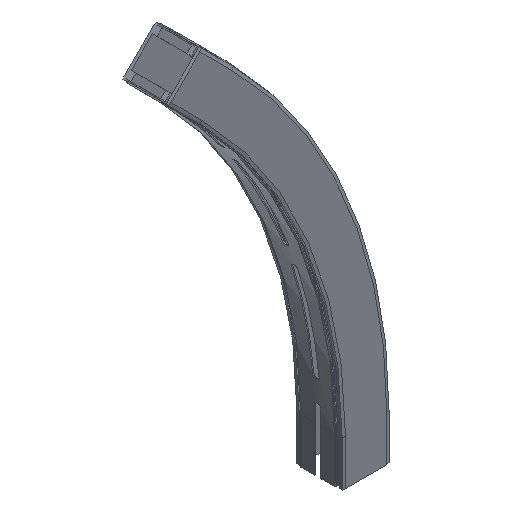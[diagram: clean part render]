
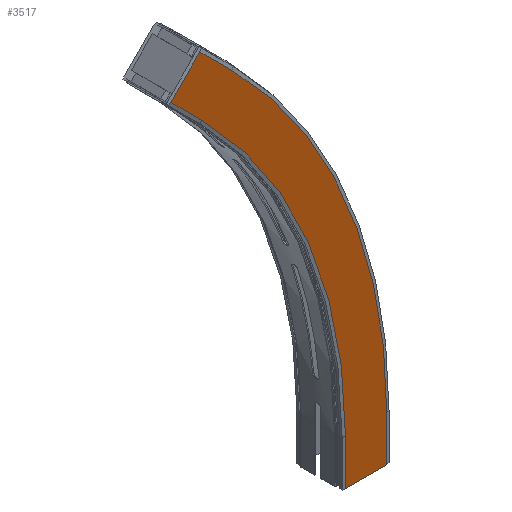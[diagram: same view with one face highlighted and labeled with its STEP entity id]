
A CAD part, isometric view. The second image highlights one B-rep face of the part: STEP entity #3517.
In plain terms, the highlighted planar face has unit normal (0, -1, 0).
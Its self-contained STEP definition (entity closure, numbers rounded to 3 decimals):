
#373=FACE_OUTER_BOUND('',#565,.T.);
#565=EDGE_LOOP('',(#3211,#3212,#3213,#3214,#3215,#3216,#3217,#3218));
#663=CIRCLE('',#3782,936.5);
#666=CIRCLE('',#3788,863.5);
#992=LINE('',#6453,#1346);
#997=LINE('',#6462,#1351);
#999=LINE('',#6467,#1353);
#1014=LINE('',#6507,#1368);
#1019=LINE('',#6518,#1373);
#1020=LINE('',#6520,#1374);
#1346=VECTOR('',#4587,10.);
#1351=VECTOR('',#4594,10.);
#1353=VECTOR('',#4598,10.);
#1368=VECTOR('',#4639,10.);
#1373=VECTOR('',#4652,10.);
#1374=VECTOR('',#4655,10.);
#1686=VERTEX_POINT('',#6450);
#1687=VERTEX_POINT('',#6452);
#1690=VERTEX_POINT('',#6459);
#1691=VERTEX_POINT('',#6464);
#1701=VERTEX_POINT('',#6490);
#1703=VERTEX_POINT('',#6500);
#1704=VERTEX_POINT('',#6505);
#1706=VERTEX_POINT('',#6516);
#2178=EDGE_CURVE('',#1687,#1686,#992,.T.);
#2183=EDGE_CURVE('',#1687,#1690,#997,.T.);
#2185=EDGE_CURVE('',#1686,#1691,#999,.T.);
#2198=EDGE_CURVE('',#1691,#1701,#663,.T.);
#2204=EDGE_CURVE('',#1690,#1703,#666,.T.);
#2206=EDGE_CURVE('',#1701,#1704,#1014,.T.);
#2211=EDGE_CURVE('',#1703,#1706,#1019,.T.);
#2212=EDGE_CURVE('',#1704,#1706,#1020,.T.);
#3211=ORIENTED_EDGE('',*,*,#2212,.T.);
#3212=ORIENTED_EDGE('',*,*,#2211,.F.);
#3213=ORIENTED_EDGE('',*,*,#2204,.F.);
#3214=ORIENTED_EDGE('',*,*,#2183,.F.);
#3215=ORIENTED_EDGE('',*,*,#2178,.T.);
#3216=ORIENTED_EDGE('',*,*,#2185,.T.);
#3217=ORIENTED_EDGE('',*,*,#2198,.T.);
#3218=ORIENTED_EDGE('',*,*,#2206,.T.);
#3338=PLANE('',#3794);
#3517=ADVANCED_FACE('',(#373),#3338,.T.);
#3782=AXIS2_PLACEMENT_3D('',#6492,#4619,#4620);
#3788=AXIS2_PLACEMENT_3D('',#6503,#4634,#4635);
#3794=AXIS2_PLACEMENT_3D('',#6519,#4653,#4654);
#4587=DIRECTION('',(1.,0.,0.));
#4594=DIRECTION('',(0.,0.,1.));
#4598=DIRECTION('',(0.,0.,1.));
#4619=DIRECTION('center_axis',(0.,-1.,0.));
#4620=DIRECTION('ref_axis',(1.,0.,0.));
#4634=DIRECTION('center_axis',(0.,-1.,0.));
#4635=DIRECTION('ref_axis',(1.,0.,0.));
#4639=DIRECTION('',(-0.707,0.,0.707));
#4652=DIRECTION('',(-0.707,0.,0.707));
#4653=DIRECTION('center_axis',(0.,-1.,0.));
#4654=DIRECTION('ref_axis',(0.707,0.,-0.707));
#4655=DIRECTION('',(-0.707,0.,-0.707));
#6450=CARTESIAN_POINT('',(36.5,-11.,0.));
#6452=CARTESIAN_POINT('',(-36.5,-11.,0.));
#6453=CARTESIAN_POINT('',(-36.5,-11.,0.));
#6459=CARTESIAN_POINT('',(-36.5,-11.,80.));
#6462=CARTESIAN_POINT('',(-36.5,-11.,0.));
#6464=CARTESIAN_POINT('',(36.5,-11.,80.));
#6467=CARTESIAN_POINT('',(36.5,-11.,0.));
#6490=CARTESIAN_POINT('',(-237.794,-11.,742.206));
#6492=CARTESIAN_POINT('Origin',(-900.,-11.,80.));
#6500=CARTESIAN_POINT('',(-289.413,-11.,690.587));
#6503=CARTESIAN_POINT('Origin',(-900.,-11.,80.));
#6505=CARTESIAN_POINT('',(-294.363,-11.,798.774));
#6507=CARTESIAN_POINT('',(318.598,-11.,185.813));
#6516=CARTESIAN_POINT('',(-345.982,-11.,747.155));
#6518=CARTESIAN_POINT('',(266.98,-11.,134.194));
#6519=CARTESIAN_POINT('Origin',(318.598,-11.,185.813));
#6520=CARTESIAN_POINT('',(-306.207,-11.,786.93));
